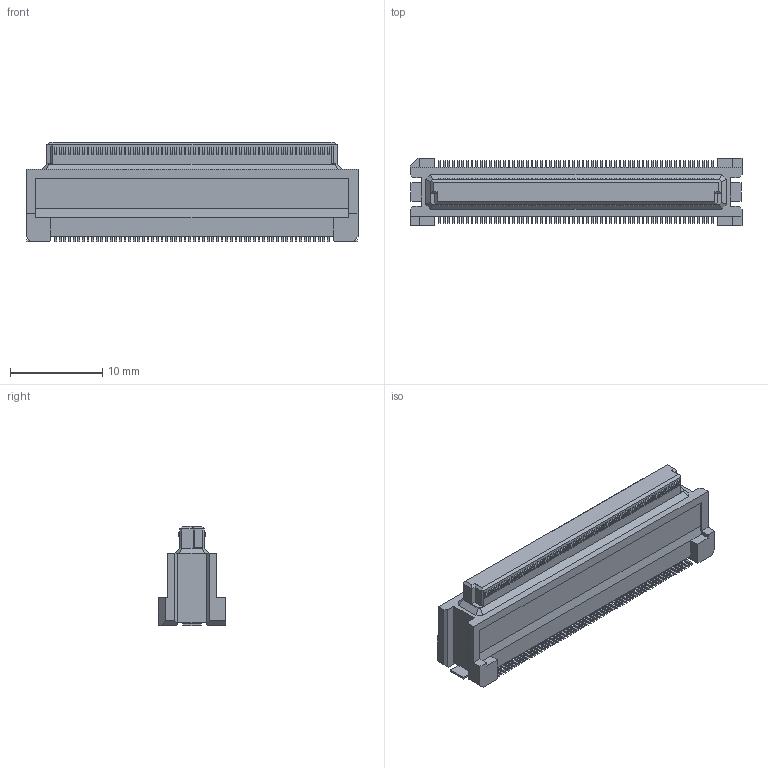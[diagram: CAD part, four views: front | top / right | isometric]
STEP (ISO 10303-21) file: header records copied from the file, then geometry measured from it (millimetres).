
FILE_DESCRIPTION(('Creo Elements/Direct Modeling STEP Export'),'2;1');
FILE_NAME('DY10-120FS-2.stp','2017-11-28T11:11:16',(''),(''),'Creo Elements/Direct Modeling STEP processor for AP214 (Solid Model)','Creo Elements/Direct Modeling 19.0F 14-Feb-2017 (C) Parametric Technology GmbH','');
FILE_SCHEMA(('AUTOMOTIVE_DESIGN { 1 0 10303 214 1 1 1 1 }'));
Length unit declared in the file: millimetre
Products named in the file (2): DY10-120FS-2
Assembly tree (1 placements, depth 2):
  DY10-120FS-2
    DY10-120FS-2
Bounding box: 35.9 x 7.3 x 10.73 mm (x, y, z)
Volume: 1472.8 mm3; surface area: 1467.2 mm2
Topology: 1 solids, 1 shells, 1716 faces, 4733 edges, 3142 vertices
Faces by surface type: plane 1222, cylinder 486, bspline 8
Entity records: 53827 total; most frequent: CARTESIAN_POINT 10534, ORIENTED_EDGE 9466, DIRECTION 8373, EDGE_CURVE 4733, VECTOR 3731, LINE 3731, VERTEX_POINT 3142, AXIS2_PLACEMENT_3D 2321
